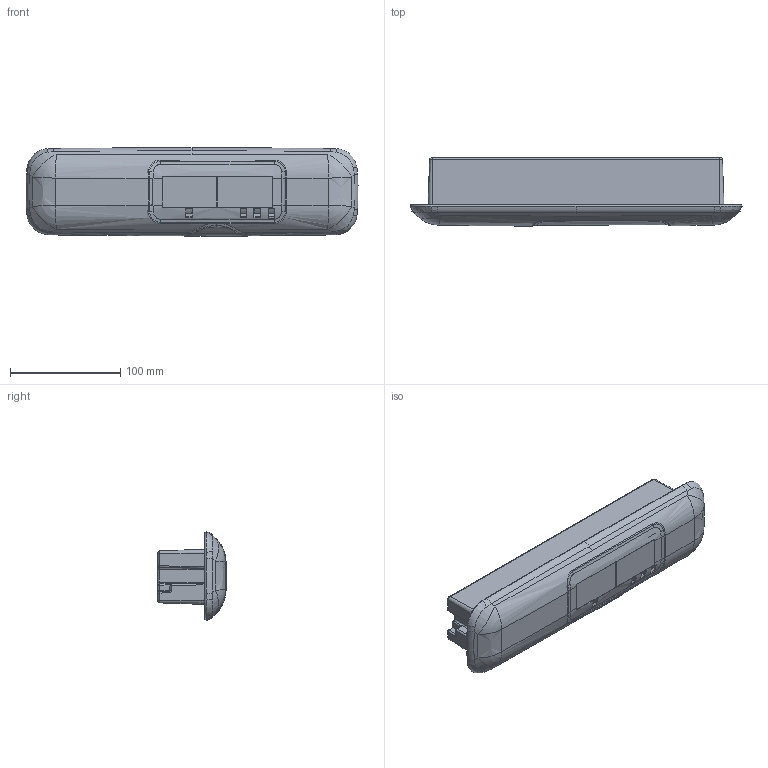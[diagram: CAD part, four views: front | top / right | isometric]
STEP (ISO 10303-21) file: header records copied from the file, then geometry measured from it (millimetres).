
FILE_DESCRIPTION (( 'STEP AP203' ), '1' );
FILE_NAME ('PTIS SAP 265254.STEP', '2022-04-01T06:12:34', ( '' ), ( '' ), 'SwSTEP 2.0', 'SolidWorks 2017', '' );
FILE_SCHEMA (( 'CONFIG_CONTROL_DESIGN' ));
Length unit declared in the file: millimetre
Products named in the file (6): 249642_Standard; 265331_Standard; 265330_Standard; 256417_Standard; PTIS SAP 265254; 264213_Standard
Assembly tree (6 placements, depth 3):
  PTIS SAP 265254
    264213_Standard
    265330_Standard
      265331_Standard
      249642_Standard  x2
      256417_Standard
Bounding box: 300.6 x 61.84 x 80.19 mm (x, y, z)
Volume: 169759 mm3; surface area: 174422.1 mm2
Topology: 5 solids, 5 shells, 2273 faces, 6195 edges, 3963 vertices
Faces by surface type: plane 1169, bspline 574, cylinder 309, cone 135, torus 49, sphere 37
Entity records: 88432 total; most frequent: CARTESIAN_POINT 37762, ORIENTED_EDGE 12218, DIRECTION 7912, EDGE_CURVE 6109, VERTEX_POINT 3919, VECTOR 3112, LINE 3112, AXIS2_PLACEMENT_3D 2400
